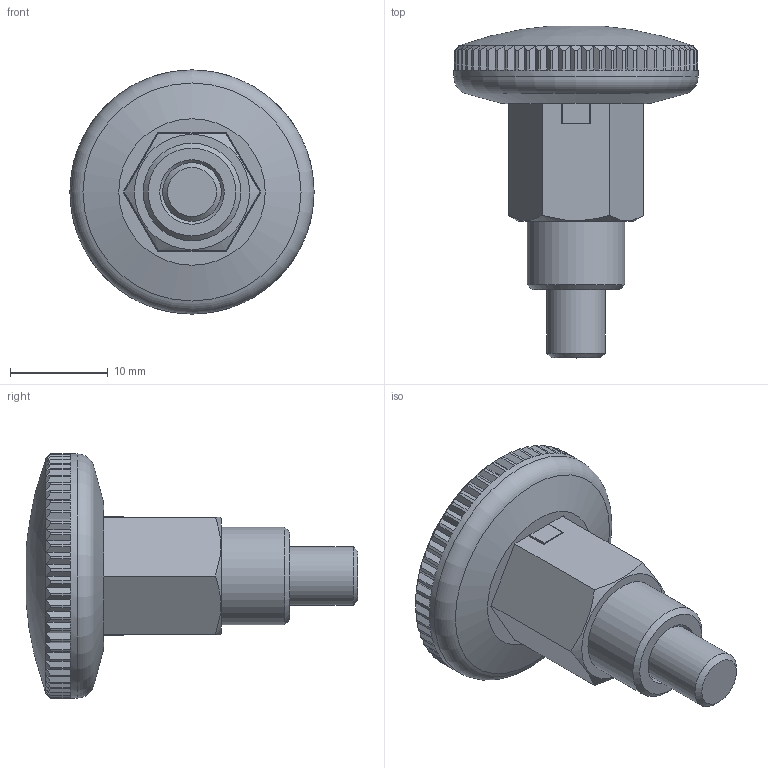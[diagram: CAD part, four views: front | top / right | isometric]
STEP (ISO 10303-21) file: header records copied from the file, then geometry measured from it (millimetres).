
FILE_DESCRIPTION( ( 'STEP AP203' ), '1' );
FILE_NAME( 'C:/Temp/Ganter_Step_05_03_2020/data/3_1/gn_822_1/gn_822_1_ni/gn_822_1_c_ni/Stainless Steel-Mini indexing plunger GN 822.1-6-C-NI (deactivated).stp', '2020-03-12T09:23:00', ( 'License CC BY-ND 4.0' ), ( 'CADENAS' ), ' ', 'PARTsolutions', ' ' );
FILE_SCHEMA( ( 'CONFIG_CONTROL_DESIGN' ) );
Length unit declared in the file: millimetre
Products named in the file (3): Stainless Steel-Mini indexing plunger GN 822.1-6-C-NI (deactivated); _Stainless Steel-Mini indexing plunger GN 822.1-6-C-NI (deactivated)-1; _Stainless Steel-Mini indexing plunger GN 822.1-6-C-NI (deactivated)-2
Assembly tree (2 placements, depth 2):
  Stainless Steel-Mini indexing plunger GN 822.1-6-C-NI (deactivated)
    _Stainless Steel-Mini indexing plunger GN 822.1-6-C-NI (deactivated)-1
    _Stainless Steel-Mini indexing plunger GN 822.1-6-C-NI (deactivated)-2
Bounding box: 25 x 34 x 25 mm (x, y, z)
Volume: 5128.9 mm3; surface area: 3780.3 mm2
Topology: 2 solids, 2 shells, 254 faces, 725 edges, 478 vertices
Faces by surface type: plane 227, cone 18, cylinder 7, bspline 1, torus 1
Full cylindrical faces by diameter (mm): 4 x1, 6 x2, 10 x1, 25 x1
Entity records: 8515 total; most frequent: CARTESIAN_POINT 2044, ORIENTED_EDGE 1412, DIRECTION 1216, EDGE_CURVE 706, VERTEX_POINT 472, AXIS2_PLACEMENT_3D 416, LINE 384, VECTOR 384
